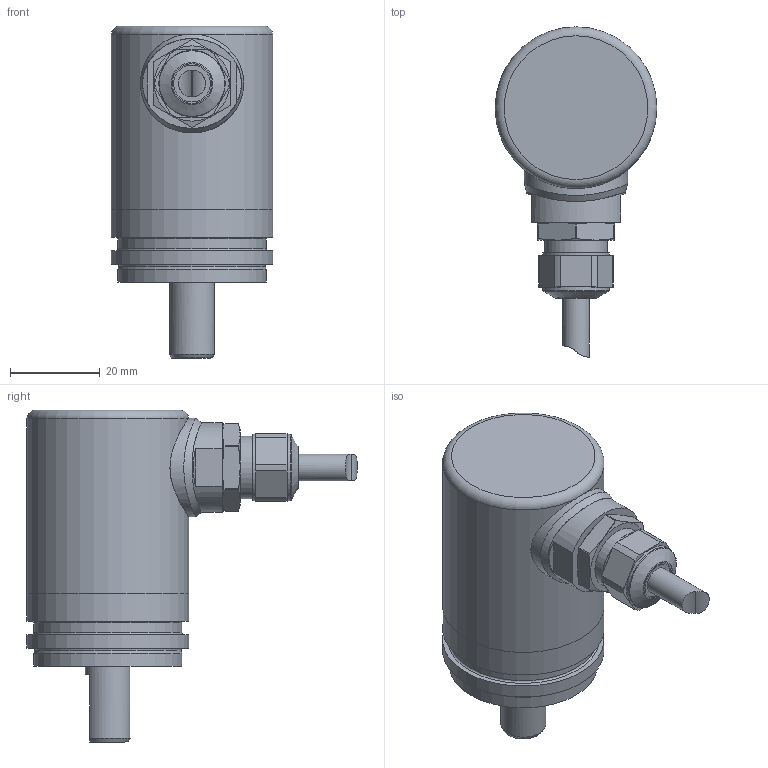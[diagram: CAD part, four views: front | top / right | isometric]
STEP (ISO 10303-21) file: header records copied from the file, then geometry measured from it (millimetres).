
FILE_DESCRIPTION( ( 'Unknown' ), '1' );
FILE_NAME( '//baumernet.org/ch01d/PJ-RD-MC/10601626_MAGRES_4/20__Produktmanagement/Datenblatt/Vereinfachte Modelle und DAB-Zeichnungen/November 2016/36/Servoflansch/EAM360-SWA.5Lxx.xxxxx.A.stp', 'Unknown', ( 'Unknown' ), ( 'Unknown' ), 'PSStep 15.0.49', 'Unknown', ' ' );
FILE_SCHEMA( ( 'AUTOMOTIVE_DESIGN { 1 0 10303 214 1 1 1 1 }' ) );
Length unit declared in the file: millimetre
Products named in the file (11): 36 S BoMo 10 vereinfacht; 11158183_vereinfacht; 11158185 vereinfacht; Kabelabgang; 11159953_vereinfacht; 11159955_vereinfacht; 11106443; Kabel; 6Kant Mutter M14; Assem1; 11161012_vereinfacht
Assembly tree (10 placements, depth 3):
  Assem1
    11161012_vereinfacht
    36 S BoMo 10 vereinfacht
      11158183_vereinfacht
      11158185 vereinfacht
    Kabelabgang
      11159953_vereinfacht
      11159955_vereinfacht
      11106443
      Kabel
      6Kant Mutter M14
Bounding box: 36 x 73.5 x 73.9 mm (x, y, z)
Surface area: 21166 mm2 (no closed solid volume)
Topology: 0 solids, 114 shells, 114 faces, 400 edges, 351 vertices
Faces by surface type: plane 49, cylinder 43, cone 12, torus 7, extrusion 2, bspline 1
Full cylindrical faces by diameter (mm): 2.459 x8, 6 x1, 8.2 x1, 10 x3, 12 x1, 13.35 x2, 14 x2, 14.8 x2, 18 x1, 33 x2, 34.4 x2, 36 x3
Entity records: 5856 total; most frequent: CARTESIAN_POINT 1644, DIRECTION 746, ORIENTED_EDGE 338, EDGE_CURVE 338, VERTEX_POINT 338, AXIS2_PLACEMENT_3D 322, CIRCLE 188, FACE_BOUND 183
